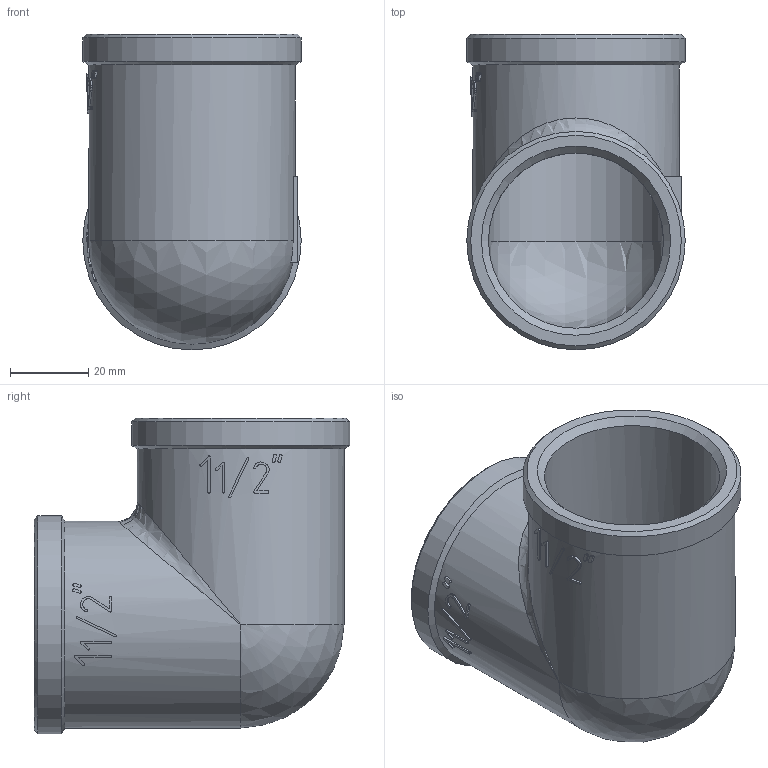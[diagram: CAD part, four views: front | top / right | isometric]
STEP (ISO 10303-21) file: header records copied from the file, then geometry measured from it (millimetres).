
FILE_DESCRIPTION(('STEP AP203'), '1');
FILE_NAME('ÂÐ.752213.005 - VTr.090.N.0008 - Ôèò. ðåçüá. óãîë', '2024-06-19T11:43:28', ('Boss'), (''), 'C3D Converter', 'C3D Toolkit', '');
FILE_SCHEMA(('CONFIG_CONTROL_DESIGN'));
Length unit declared in the file: millimetre
Products named in the file (1): ВР.752213.005
Bounding box: 56 x 81 x 81 mm (x, y, z)
Volume: 67730.5 mm3; surface area: 33498.4 mm2
Topology: 1 solids, 1 shells, 239 faces, 666 edges, 439 vertices
Faces by surface type: extrusion 138, plane 73, cylinder 19, cone 6, sphere 2, bspline 1
Full cylindrical faces by diameter (mm): 44.9 x2, 53 x2, 56 x2
Entity records: 11196 total; most frequent: CARTESIAN_POINT 5882, ORIENTED_EDGE 1300, DIRECTION 655, EDGE_CURVE 650, VERTEX_POINT 439, B_SPLINE_CURVE_WITH_KNOTS 420, VECTOR 387, EDGE_LOOP 267
